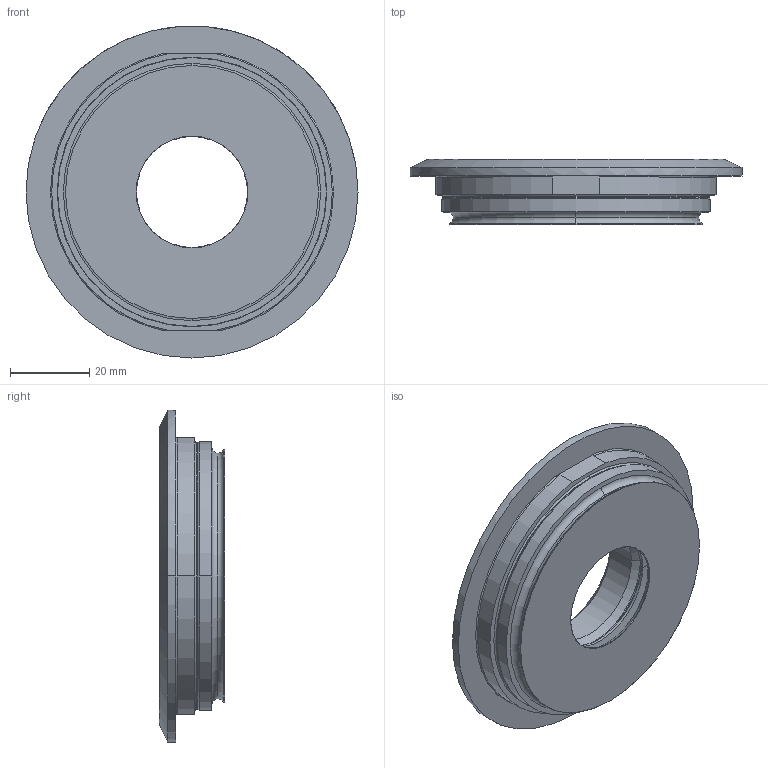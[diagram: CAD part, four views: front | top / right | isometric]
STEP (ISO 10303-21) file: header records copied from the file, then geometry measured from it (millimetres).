
FILE_DESCRIPTION( ( '' ), '1' );
FILE_NAME( '//expscmdclustefs.cadenas.external/client_exchange/iodir/jobs/output/wkb55043768_no0/STEP/E33222_204.stp', '2013-03-01T12:36:35', ( '' ), ( '' ), ' ', ' ', ' ' );
FILE_SCHEMA( ( 'CONFIG_CONTROL_DESIGN' ) );
Length unit declared in the file: millimetre
Products named in the file (1): 1
Bounding box: 84 x 16.5 x 84 mm (x, y, z)
Volume: 53485.8 mm3; surface area: 15673.3 mm2
Topology: 1 solids, 1 shells, 63 faces, 154 edges, 98 vertices
Faces by surface type: torus 24, cylinder 16, cone 14, plane 9
Entity records: 2010 total; most frequent: DIRECTION 392, CARTESIAN_POINT 376, ORIENTED_EDGE 308, AXIS2_PLACEMENT_3D 178, EDGE_CURVE 154, CIRCLE 114, VERTEX_POINT 98, EDGE_LOOP 70
